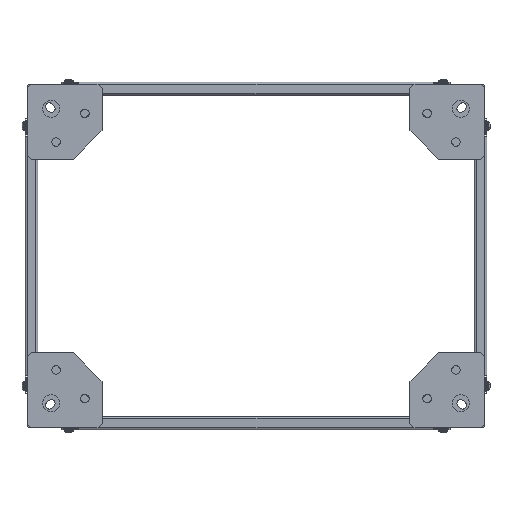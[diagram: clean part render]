
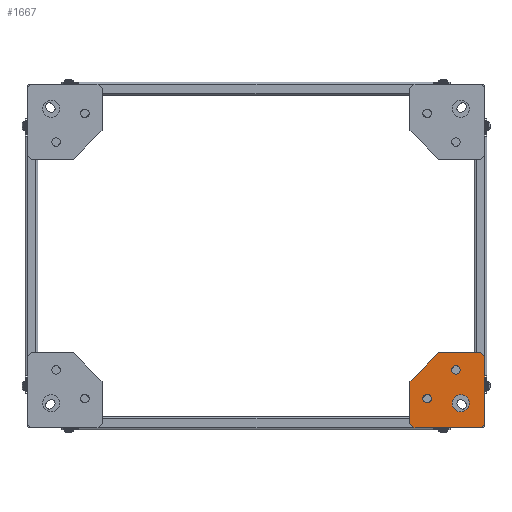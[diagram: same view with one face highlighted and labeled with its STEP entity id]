
A CAD part, front view. The second image highlights one B-rep face of the part: STEP entity #1667.
In plain terms, the highlighted planar face has unit normal (0, -1, 0).
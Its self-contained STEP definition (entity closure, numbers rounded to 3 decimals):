
#247 = EDGE_CURVE ( 'NONE', #7574, #15923, #11998, .T. ) ;
#804 = VECTOR ( 'NONE', #6913, 1000. ) ;
#901 = CARTESIAN_POINT ( 'NONE',  ( 22., 0., 35.5 ) ) ;
#973 = CIRCLE ( 'NONE', #11493, 15. ) ;
#1119 = FACE_BOUND ( 'NONE', #10376, .T. ) ;
#1323 = VECTOR ( 'NONE', #19640, 1000. ) ;
#1442 = DIRECTION ( 'NONE',  ( -1., 0., 0. ) ) ;
#1597 = CARTESIAN_POINT ( 'NONE',  ( -58.5, 0., -65.5 ) ) ;
#1633 = LINE ( 'NONE', #7979, #7239 ) ;
#1634 = VERTEX_POINT ( 'NONE', #11379 ) ;
#1667 = ADVANCED_FACE ( 'NONE', ( #1119, #9811, #4130, #2282 ), #21833, .T. ) ;
#1843 = DIRECTION ( 'NONE',  ( 0., 0., -1. ) ) ;
#2015 = ORIENTED_EDGE ( 'NONE', *, *, #9050, .T. ) ;
#2074 = EDGE_CURVE ( 'NONE', #2988, #2982, #24060, .T. ) ;
#2282 = FACE_OUTER_BOUND ( 'NONE', #25937, .T. ) ;
#2473 = CARTESIAN_POINT ( 'NONE',  ( 58.5, 0., 65.5 ) ) ;
#2982 = VERTEX_POINT ( 'NONE', #2473 ) ;
#2988 = VERTEX_POINT ( 'NONE', #22171 ) ;
#3047 = EDGE_CURVE ( 'NONE', #4749, #13934, #10253, .T. ) ;
#3439 = ORIENTED_EDGE ( 'NONE', *, *, #12245, .T. ) ;
#4130 = FACE_BOUND ( 'NONE', #8660, .T. ) ;
#4749 = VERTEX_POINT ( 'NONE', #5673 ) ;
#4764 = AXIS2_PLACEMENT_3D ( 'NONE', #13573, #19655, #1442 ) ;
#5188 = CARTESIAN_POINT ( 'NONE',  ( -35.5, 0., -14.5 ) ) ;
#5673 = CARTESIAN_POINT ( 'NONE',  ( 8., 0., -23. ) ) ;
#6030 = EDGE_CURVE ( 'NONE', #11759, #2988, #11731, .T. ) ;
#6651 = LINE ( 'NONE', #23032, #804 ) ;
#6774 = CIRCLE ( 'NONE', #10544, 7.5 ) ;
#6913 = DIRECTION ( 'NONE',  ( -1., 0., 0. ) ) ;
#6946 = DIRECTION ( 'NONE',  ( 0., -1., 0. ) ) ;
#7146 = DIRECTION ( 'NONE',  ( 1., 0., 0. ) ) ;
#7239 = VECTOR ( 'NONE', #11651, 1000. ) ;
#7574 = VERTEX_POINT ( 'NONE', #9613 ) ;
#7979 = CARTESIAN_POINT ( 'NONE',  ( -2.75, 0., -128.25 ) ) ;
#8018 = EDGE_CURVE ( 'NONE', #10046, #25194, #18018, .T. ) ;
#8091 = ORIENTED_EDGE ( 'NONE', *, *, #8289, .F. ) ;
#8289 = EDGE_CURVE ( 'NONE', #13934, #4749, #973, .T. ) ;
#8422 = DIRECTION ( 'NONE',  ( -0.707, 0., -0.707 ) ) ;
#8426 = ORIENTED_EDGE ( 'NONE', *, *, #21066, .F. ) ;
#8553 = CARTESIAN_POINT ( 'NONE',  ( 23., 0., -23. ) ) ;
#8616 = VERTEX_POINT ( 'NONE', #14516 ) ;
#8660 = EDGE_LOOP ( 'NONE', ( #8426, #20462 ) ) ;
#8878 = EDGE_CURVE ( 'NONE', #24298, #16838, #16995, .T. ) ;
#9026 = DIRECTION ( 'NONE',  ( 0., -1., 0. ) ) ;
#9050 = EDGE_CURVE ( 'NONE', #1634, #8616, #24530, .T. ) ;
#9238 = VECTOR ( 'NONE', #13982, 1000. ) ;
#9613 = CARTESIAN_POINT ( 'NONE',  ( -43., 0., -14.5 ) ) ;
#9689 = CARTESIAN_POINT ( 'NONE',  ( -62., 0., -62. ) ) ;
#9811 = FACE_BOUND ( 'NONE', #25966, .T. ) ;
#10046 = VERTEX_POINT ( 'NONE', #16888 ) ;
#10253 = CIRCLE ( 'NONE', #15744, 15. ) ;
#10271 = DIRECTION ( 'NONE',  ( 0., -1., 0. ) ) ;
#10274 = EDGE_CURVE ( 'NONE', #8616, #10046, #19392, .T. ) ;
#10376 = EDGE_LOOP ( 'NONE', ( #8091, #20541 ) ) ;
#10544 = AXIS2_PLACEMENT_3D ( 'NONE', #21587, #6946, #19468 ) ;
#10968 = DIRECTION ( 'NONE',  ( 1., 0., 0. ) ) ;
#11330 = ORIENTED_EDGE ( 'NONE', *, *, #6030, .T. ) ;
#11379 = CARTESIAN_POINT ( 'NONE',  ( -15.5, 0., 65.5 ) ) ;
#11493 = AXIS2_PLACEMENT_3D ( 'NONE', #13343, #17179, #10968 ) ;
#11651 = DIRECTION ( 'NONE',  ( 0.707, 0., 0.707 ) ) ;
#11731 = LINE ( 'NONE', #19799, #9238 ) ;
#11759 = VERTEX_POINT ( 'NONE', #19151 ) ;
#11784 = DIRECTION ( 'NONE',  ( 0.707, 0., -0.707 ) ) ;
#11998 = CIRCLE ( 'NONE', #18325, 7.5 ) ;
#12084 = ORIENTED_EDGE ( 'NONE', *, *, #8018, .T. ) ;
#12239 = DIRECTION ( 'NONE',  ( 1., 0., 0. ) ) ;
#12245 = EDGE_CURVE ( 'NONE', #25194, #23555, #25741, .T. ) ;
#12753 = ORIENTED_EDGE ( 'NONE', *, *, #2074, .T. ) ;
#13006 = CARTESIAN_POINT ( 'NONE',  ( 38., 0., -23. ) ) ;
#13343 = CARTESIAN_POINT ( 'NONE',  ( 23., 0., -23. ) ) ;
#13573 = CARTESIAN_POINT ( 'NONE',  ( 14.5, 0., 35.5 ) ) ;
#13934 = VERTEX_POINT ( 'NONE', #13006 ) ;
#13982 = DIRECTION ( 'NONE',  ( 0., 0., 1. ) ) ;
#14169 = CARTESIAN_POINT ( 'NONE',  ( -65.5, 0., -65.5 ) ) ;
#14516 = CARTESIAN_POINT ( 'NONE',  ( -65.5, 0., 15.5 ) ) ;
#14563 = EDGE_CURVE ( 'NONE', #23555, #11759, #1633, .T. ) ;
#15744 = AXIS2_PLACEMENT_3D ( 'NONE', #8553, #10271, #12239 ) ;
#15887 = CIRCLE ( 'NONE', #20100, 7.5 ) ;
#15923 = VERTEX_POINT ( 'NONE', #18313 ) ;
#15963 = EDGE_CURVE ( 'NONE', #2982, #1634, #6651, .T. ) ;
#16073 = CARTESIAN_POINT ( 'NONE',  ( 7., 0., 35.5 ) ) ;
#16468 = ORIENTED_EDGE ( 'NONE', *, *, #8878, .F. ) ;
#16838 = VERTEX_POINT ( 'NONE', #901 ) ;
#16888 = CARTESIAN_POINT ( 'NONE',  ( -65.5, 0., -58.5 ) ) ;
#16995 = CIRCLE ( 'NONE', #4764, 7.5 ) ;
#17179 = DIRECTION ( 'NONE',  ( 0., -1., 0. ) ) ;
#17422 = VECTOR ( 'NONE', #8422, 1000. ) ;
#17464 = EDGE_CURVE ( 'NONE', #16838, #24298, #6774, .T. ) ;
#17771 = VECTOR ( 'NONE', #1843, 1000. ) ;
#17829 = VECTOR ( 'NONE', #11784, 1000. ) ;
#17847 = CARTESIAN_POINT ( 'NONE',  ( 62., 0., 62. ) ) ;
#18018 = LINE ( 'NONE', #9689, #17829 ) ;
#18234 = DIRECTION ( 'NONE',  ( -0.707, 0., 0.707 ) ) ;
#18313 = CARTESIAN_POINT ( 'NONE',  ( -28., 0., -14.5 ) ) ;
#18325 = AXIS2_PLACEMENT_3D ( 'NONE', #5188, #9026, #25406 ) ;
#18482 = ORIENTED_EDGE ( 'NONE', *, *, #15963, .T. ) ;
#19151 = CARTESIAN_POINT ( 'NONE',  ( 65.5, 0., -60. ) ) ;
#19230 = ORIENTED_EDGE ( 'NONE', *, *, #17464, .F. ) ;
#19392 = LINE ( 'NONE', #25893, #17771 ) ;
#19468 = DIRECTION ( 'NONE',  ( -1., 0., 0. ) ) ;
#19640 = DIRECTION ( 'NONE',  ( 1., 0., 0. ) ) ;
#19655 = DIRECTION ( 'NONE',  ( 0., -1., 0. ) ) ;
#19799 = CARTESIAN_POINT ( 'NONE',  ( 65.5, 0., 65.5 ) ) ;
#20100 = AXIS2_PLACEMENT_3D ( 'NONE', #25250, #23261, #7146 ) ;
#20313 = VECTOR ( 'NONE', #18234, 1000. ) ;
#20462 = ORIENTED_EDGE ( 'NONE', *, *, #247, .F. ) ;
#20541 = ORIENTED_EDGE ( 'NONE', *, *, #3047, .F. ) ;
#20557 = CARTESIAN_POINT ( 'NONE',  ( -106., 0., -25. ) ) ;
#21066 = EDGE_CURVE ( 'NONE', #15923, #7574, #15887, .T. ) ;
#21587 = CARTESIAN_POINT ( 'NONE',  ( 14.5, 0., 35.5 ) ) ;
#21824 = CARTESIAN_POINT ( 'NONE',  ( 60., 0., -65.5 ) ) ;
#21833 = PLANE ( 'NONE',  #22891 ) ;
#22171 = CARTESIAN_POINT ( 'NONE',  ( 65.5, 0., 58.5 ) ) ;
#22234 = DIRECTION ( 'NONE',  ( 0., -1., 0. ) ) ;
#22891 = AXIS2_PLACEMENT_3D ( 'NONE', #14169, #22234, #24348 ) ;
#23032 = CARTESIAN_POINT ( 'NONE',  ( -65.5, 0., 65.5 ) ) ;
#23261 = DIRECTION ( 'NONE',  ( 0., -1., 0. ) ) ;
#23555 = VERTEX_POINT ( 'NONE', #21824 ) ;
#23749 = CARTESIAN_POINT ( 'NONE',  ( -65.5, 0., -65.5 ) ) ;
#24060 = LINE ( 'NONE', #17847, #20313 ) ;
#24298 = VERTEX_POINT ( 'NONE', #16073 ) ;
#24348 = DIRECTION ( 'NONE',  ( 1., 0., 0. ) ) ;
#24393 = ORIENTED_EDGE ( 'NONE', *, *, #14563, .T. ) ;
#24530 = LINE ( 'NONE', #20557, #17422 ) ;
#25194 = VERTEX_POINT ( 'NONE', #1597 ) ;
#25250 = CARTESIAN_POINT ( 'NONE',  ( -35.5, 0., -14.5 ) ) ;
#25383 = ORIENTED_EDGE ( 'NONE', *, *, #10274, .T. ) ;
#25406 = DIRECTION ( 'NONE',  ( 1., 0., 0. ) ) ;
#25741 = LINE ( 'NONE', #23749, #1323 ) ;
#25893 = CARTESIAN_POINT ( 'NONE',  ( -65.5, 0., 65.5 ) ) ;
#25937 = EDGE_LOOP ( 'NONE', ( #25383, #12084, #3439, #24393, #11330, #12753, #18482, #2015 ) ) ;
#25966 = EDGE_LOOP ( 'NONE', ( #19230, #16468 ) ) ;
